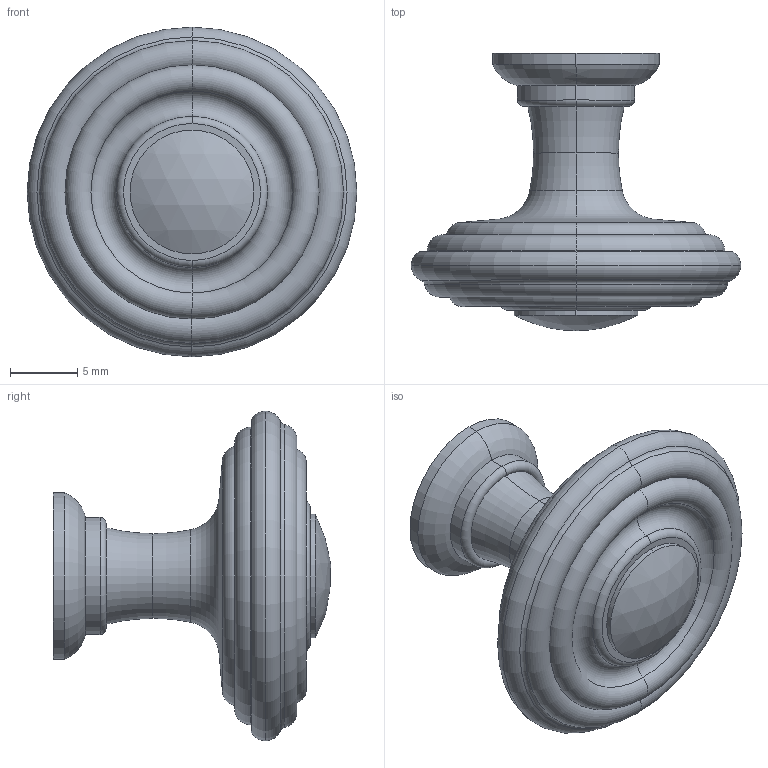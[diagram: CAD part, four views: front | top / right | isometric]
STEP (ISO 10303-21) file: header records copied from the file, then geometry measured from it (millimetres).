
FILE_DESCRIPTION( ( '' ), '1' );
FILE_NAME( 'C:/Documents and Settings/Nikhil/Desktop/Nik/Done/9113446.stp', '2013-10-23T11:20:28', ( '' ), ( '' ), ' ', ' ', ' ' );
FILE_SCHEMA( ( 'automotive_design' ) );
Length unit declared in the file: millimetre
Products named in the file (1): 1
Bounding box: 24.5 x 20.6 x 24.5 mm (x, y, z)
Volume: 2917 mm3; surface area: 1821.5 mm2
Topology: 1 solids, 1 shells, 46 faces, 90 edges, 50 vertices
Faces by surface type: torus 30, cylinder 8, plane 5, cone 2, sphere 1
Entity records: 2286 total; most frequent: DIRECTION 264, STYLED_ITEM 187, PRESENTATION_STYLE_ASSIGNMENT 187, CARTESIAN_POINT 187, COLOUR_RGB 187, ORIENTED_EDGE 180, AXIS2_PLACEMENT_3D 127, EDGE_CURVE 90
